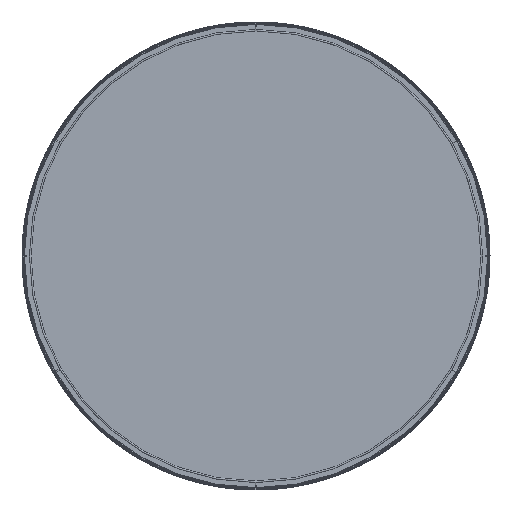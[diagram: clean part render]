
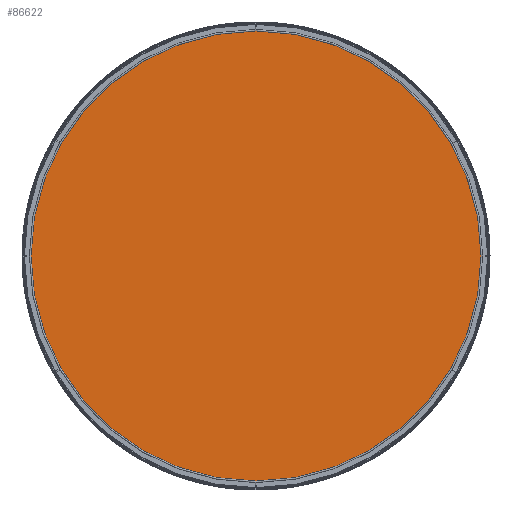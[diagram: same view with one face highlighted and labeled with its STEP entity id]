
A CAD part, front view. The second image highlights one B-rep face of the part: STEP entity #86622.
In plain terms, the highlighted planar face has unit normal (0, -1, 0).
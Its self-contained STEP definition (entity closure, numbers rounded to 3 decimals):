
#8725=PLANE('',#94480);
#26244=FACE_OUTER_BOUND('',#31649,.T.);
#31649=EDGE_LOOP('',(#81198));
#35112=CIRCLE('',#94478,288.488);
#43483=VERTEX_POINT('',#259745);
#56058=EDGE_CURVE('',#43483,#43483,#35112,.T.);
#81198=ORIENTED_EDGE('',*,*,#56058,.F.);
#86622=ADVANCED_FACE('',(#26244),#8725,.T.);
#94478=AXIS2_PLACEMENT_3D('',#259747,#114280,#114281);
#94480=AXIS2_PLACEMENT_3D('',#259749,#114284,#114285);
#114280=DIRECTION('center_axis',(0.,1.,0.));
#114281=DIRECTION('ref_axis',(1.,0.,0.));
#114284=DIRECTION('center_axis',(0.,-1.,0.));
#114285=DIRECTION('ref_axis',(0.,0.,-1.));
#259745=CARTESIAN_POINT('',(0.,32.962,-288.488));
#259747=CARTESIAN_POINT('Origin',(0.,32.962,0.));
#259749=CARTESIAN_POINT('Origin',(0.,32.962,288.488));
